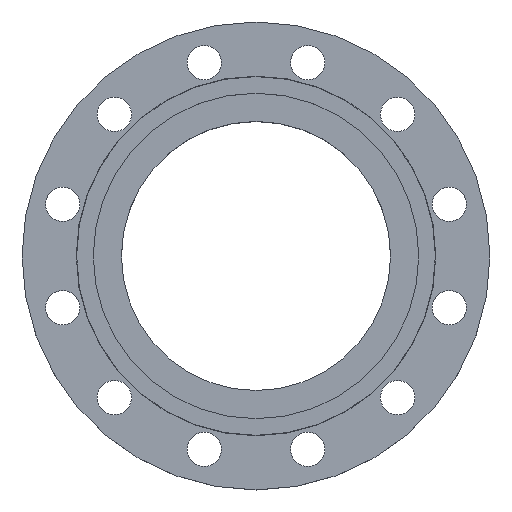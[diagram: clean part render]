
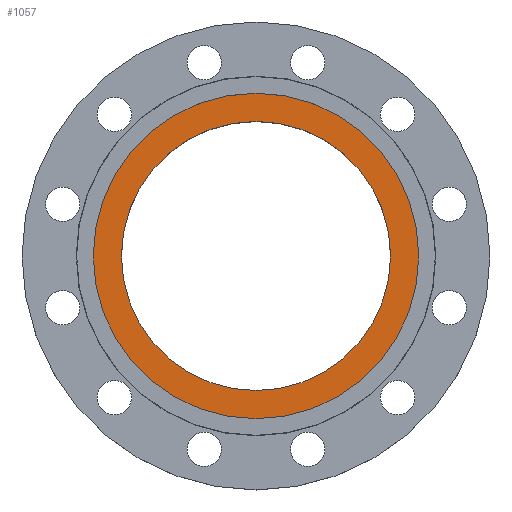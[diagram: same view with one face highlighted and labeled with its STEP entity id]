
A CAD part, top view. The second image highlights one B-rep face of the part: STEP entity #1057.
In plain terms, the highlighted planar face has unit normal (0, 0, 1).
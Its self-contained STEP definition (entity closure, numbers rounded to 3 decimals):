
#41 = CARTESIAN_POINT ( 'NONE',  ( 129.4, 0., -4.5 ) ) ;
#64 = EDGE_CURVE ( 'NONE', #1403, #1432, #166, .T. ) ;
#66 = CARTESIAN_POINT ( 'NONE',  ( -129.4, 0., -4.5 ) ) ;
#103 = EDGE_CURVE ( 'NONE', #955, #1338, #309, .T. ) ;
#121 = CARTESIAN_POINT ( 'NONE',  ( 156.5, 0., -4.5 ) ) ;
#166 = CIRCLE ( 'NONE', #169, 129.4 ) ;
#169 = AXIS2_PLACEMENT_3D ( 'NONE', #906, #904, #903 ) ;
#309 = CIRCLE ( 'NONE', #338, 156.5 ) ;
#338 = AXIS2_PLACEMENT_3D ( 'NONE', #881, #879, #877 ) ;
#342 = EDGE_CURVE ( 'NONE', #1432, #1403, #969, .T. ) ;
#380 = DIRECTION ( 'NONE',  ( 1., 0., 0. ) ) ;
#381 = DIRECTION ( 'NONE',  ( 0., 0., 1. ) ) ;
#382 = CARTESIAN_POINT ( 'NONE',  ( 156.5, 0., -4.5 ) ) ;
#383 = PLANE ( 'NONE',  #1366 ) ;
#387 = FACE_OUTER_BOUND ( 'NONE', #1451, .T. ) ;
#388 = FACE_BOUND ( 'NONE', #1028, .T. ) ;
#427 = CARTESIAN_POINT ( 'NONE',  ( -156.5, 0., -4.5 ) ) ;
#511 = DIRECTION ( 'NONE',  ( -1., 0., 0. ) ) ;
#513 = DIRECTION ( 'NONE',  ( 0., 0., -1. ) ) ;
#514 = CARTESIAN_POINT ( 'NONE',  ( 0., 0., -4.5 ) ) ;
#536 = AXIS2_PLACEMENT_3D ( 'NONE', #514, #513, #511 ) ;
#540 = CIRCLE ( 'NONE', #536, 156.5 ) ;
#745 = DIRECTION ( 'NONE',  ( 1., 0., 0. ) ) ;
#747 = DIRECTION ( 'NONE',  ( 0., 0., -1. ) ) ;
#749 = CARTESIAN_POINT ( 'NONE',  ( 0., 0., -4.5 ) ) ;
#802 = EDGE_CURVE ( 'NONE', #1338, #955, #540, .T. ) ;
#877 = DIRECTION ( 'NONE',  ( -1., 0., 0. ) ) ;
#879 = DIRECTION ( 'NONE',  ( 0., 0., -1. ) ) ;
#881 = CARTESIAN_POINT ( 'NONE',  ( 0., 0., -4.5 ) ) ;
#903 = DIRECTION ( 'NONE',  ( 1., 0., 0. ) ) ;
#904 = DIRECTION ( 'NONE',  ( 0., 0., -1. ) ) ;
#906 = CARTESIAN_POINT ( 'NONE',  ( 0., 0., -4.5 ) ) ;
#955 = VERTEX_POINT ( 'NONE', #427 ) ;
#969 = CIRCLE ( 'NONE', #974, 129.4 ) ;
#974 = AXIS2_PLACEMENT_3D ( 'NONE', #749, #747, #745 ) ;
#1028 = EDGE_LOOP ( 'NONE', ( #1272, #1274 ) ) ;
#1057 = ADVANCED_FACE ( 'NONE', ( #388, #387 ), #383, .T. ) ;
#1272 = ORIENTED_EDGE ( 'NONE', *, *, #64, .T. ) ;
#1274 = ORIENTED_EDGE ( 'NONE', *, *, #342, .T. ) ;
#1275 = ORIENTED_EDGE ( 'NONE', *, *, #103, .F. ) ;
#1276 = ORIENTED_EDGE ( 'NONE', *, *, #802, .F. ) ;
#1338 = VERTEX_POINT ( 'NONE', #121 ) ;
#1366 = AXIS2_PLACEMENT_3D ( 'NONE', #382, #381, #380 ) ;
#1403 = VERTEX_POINT ( 'NONE', #66 ) ;
#1432 = VERTEX_POINT ( 'NONE', #41 ) ;
#1451 = EDGE_LOOP ( 'NONE', ( #1275, #1276 ) ) ;
